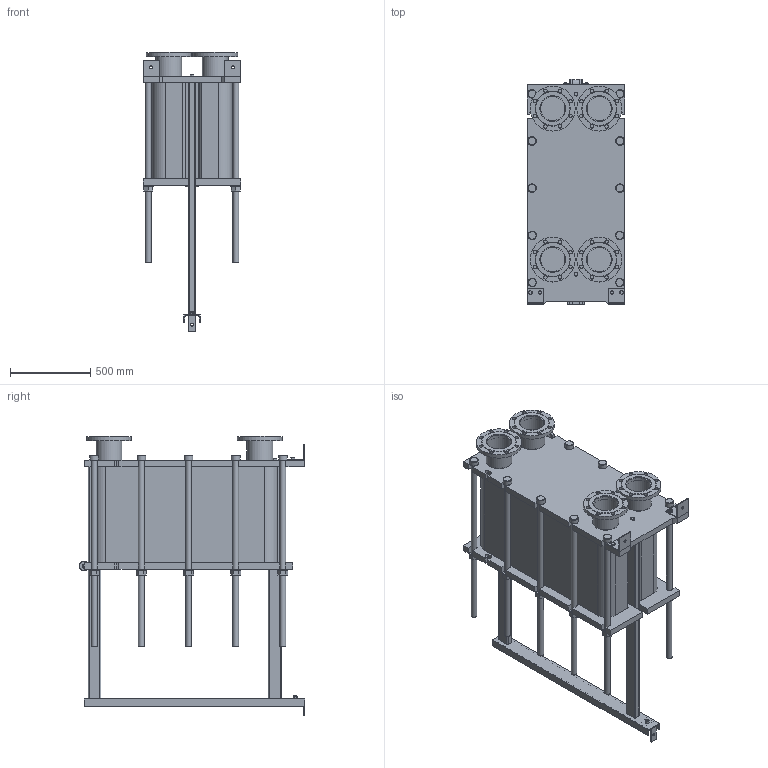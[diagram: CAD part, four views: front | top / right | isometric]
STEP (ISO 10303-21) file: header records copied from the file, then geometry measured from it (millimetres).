
FILE_DESCRIPTION(/* description */ (''),/* implementation_level */ '2;1');
FILE_NAME(/* name */ 'C:\Users\zhuro\Desktop\ENCO\TO\ЭН-041\ЭН-0,5-041-174-1.stp',/* time_stamp */ '2022-06-06T11:04:48+03:00',/* author */ ('zhuro'),/* organization */ (''),/* preprocessor_version */ 'ST-DEVELOPER v18.1',/* originating_system */ 'Autodesk Inventor 2022',/* authorisation */ '');
FILE_SCHEMA (('AUTOMOTIVE_DESIGN { 1 0 10303 214 3 1 1 }'));
Length unit declared in the file: millimetre
Products named in the file (1): ЭН-0,5-041-174-1
Bounding box: 610 x 1406.5 x 1745 mm (x, y, z)
Volume: 423304419.7 mm3; surface area: 10656150.4 mm2
Topology: 52 solids, 52 shells, 711 faces, 1696 edges, 1094 vertices
Faces by surface type: plane 487, cylinder 177, cone 41, torus 6
Full cylindrical faces by diameter (mm): 8 x4, 10 x2, 16 x8, 18 x3, 22 x32, 36 x24, 50 x1, 54 x10, 60 x12, 151 x4, 161 x8, 280 x4
Entity records: 22667 total; most frequent: CARTESIAN_POINT 5230, DIRECTION 3644, ORIENTED_EDGE 3392, EDGE_CURVE 1696, AXIS2_PLACEMENT_3D 1272, LINE 1100, VECTOR 1100, VERTEX_POINT 1094
